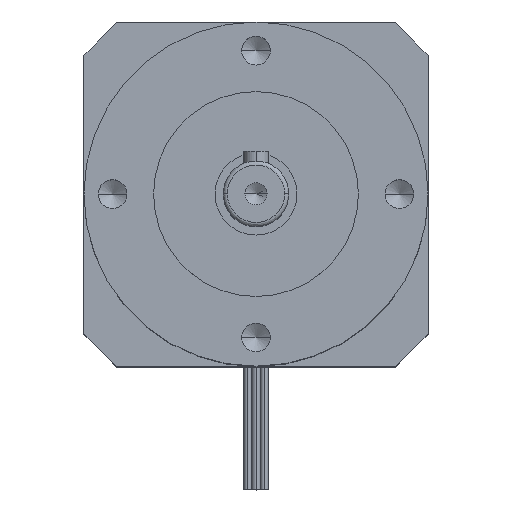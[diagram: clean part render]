
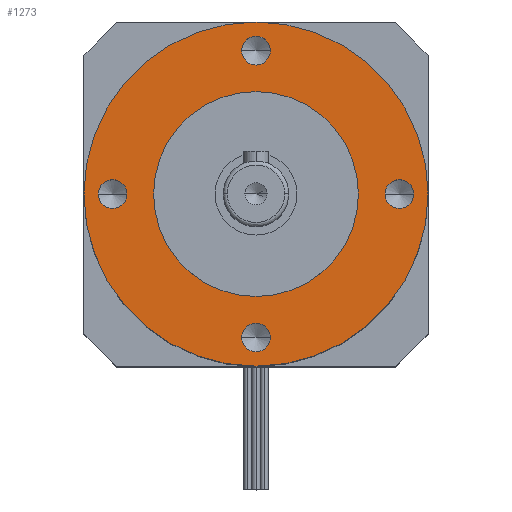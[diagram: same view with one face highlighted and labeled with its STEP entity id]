
A CAD part, top view. The second image highlights one B-rep face of the part: STEP entity #1273.
In plain terms, the highlighted planar face has unit normal (0, 0, 1).
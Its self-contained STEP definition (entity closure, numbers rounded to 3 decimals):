
#2 = DIRECTION ( 'NONE',  ( 0., 0., -1. ) ) ;
#8 = FACE_BOUND ( 'NONE', #1263, .T. ) ;
#12 = AXIS2_PLACEMENT_3D ( 'NONE', #1371, #1602, #530 ) ;
#33 = CARTESIAN_POINT ( 'NONE',  ( 0., -17.5, 0. ) ) ;
#65 = DIRECTION ( 'NONE',  ( -1., 0., 0. ) ) ;
#83 = EDGE_LOOP ( 'NONE', ( #880, #2537 ) ) ;
#96 = VERTEX_POINT ( 'NONE', #1905 ) ;
#98 = DIRECTION ( 'NONE',  ( -1., 0., 0. ) ) ;
#106 = DIRECTION ( 'NONE',  ( -1., 0., 0. ) ) ;
#113 = VERTEX_POINT ( 'NONE', #2788 ) ;
#115 = AXIS2_PLACEMENT_3D ( 'NONE', #1536, #2636, #1202 ) ;
#120 = EDGE_CURVE ( 'NONE', #96, #1233, #2514, .T. ) ;
#152 = CARTESIAN_POINT ( 'NONE',  ( 0., -17.5, 0. ) ) ;
#222 = AXIS2_PLACEMENT_3D ( 'NONE', #1409, #1854, #2082 ) ;
#227 = VERTEX_POINT ( 'NONE', #2404 ) ;
#230 = ORIENTED_EDGE ( 'NONE', *, *, #370, .F. ) ;
#234 = DIRECTION ( 'NONE',  ( -1., 0., 0. ) ) ;
#296 = DIRECTION ( 'NONE',  ( 0., 0., -1. ) ) ;
#331 = EDGE_CURVE ( 'NONE', #2233, #2077, #1846, .T. ) ;
#342 = VERTEX_POINT ( 'NONE', #536 ) ;
#370 = EDGE_CURVE ( 'NONE', #2631, #1724, #546, .T. ) ;
#374 = DIRECTION ( 'NONE',  ( -1., 0., 0. ) ) ;
#397 = CIRCLE ( 'NONE', #1594, 21. ) ;
#408 = AXIS2_PLACEMENT_3D ( 'NONE', #33, #2531, #65 ) ;
#428 = DIRECTION ( 'NONE',  ( 0., 0., 1. ) ) ;
#437 = CARTESIAN_POINT ( 'NONE',  ( -17.5, 0., 0. ) ) ;
#497 = EDGE_CURVE ( 'NONE', #1724, #2631, #1447, .T. ) ;
#512 = DIRECTION ( 'NONE',  ( 0., 0., -1. ) ) ;
#522 = CARTESIAN_POINT ( 'NONE',  ( 0., 0., 0. ) ) ;
#530 = DIRECTION ( 'NONE',  ( -1., 0., 0. ) ) ;
#536 = CARTESIAN_POINT ( 'NONE',  ( 1.75, -17.5, 0. ) ) ;
#546 = CIRCLE ( 'NONE', #222, 1.75 ) ;
#549 = EDGE_CURVE ( 'NONE', #1233, #96, #2260, .T. ) ;
#603 = FACE_BOUND ( 'NONE', #2399, .T. ) ;
#636 = DIRECTION ( 'NONE',  ( -1., 0., 0. ) ) ;
#638 = CARTESIAN_POINT ( 'NONE',  ( 12.5, 0., 0. ) ) ;
#751 = VERTEX_POINT ( 'NONE', #1996 ) ;
#828 = DIRECTION ( 'NONE',  ( 0., 0., 1. ) ) ;
#874 = CIRCLE ( 'NONE', #408, 1.75 ) ;
#880 = ORIENTED_EDGE ( 'NONE', *, *, #2420, .F. ) ;
#897 = FACE_OUTER_BOUND ( 'NONE', #2814, .T. ) ;
#898 = CARTESIAN_POINT ( 'NONE',  ( 15.75, 0., 0. ) ) ;
#935 = CARTESIAN_POINT ( 'NONE',  ( 1.75, 17.5, 0. ) ) ;
#943 = AXIS2_PLACEMENT_3D ( 'NONE', #152, #828, #374 ) ;
#974 = FACE_BOUND ( 'NONE', #1064, .T. ) ;
#989 = AXIS2_PLACEMENT_3D ( 'NONE', #1815, #2, #234 ) ;
#997 = EDGE_CURVE ( 'NONE', #2061, #1398, #397, .T. ) ;
#998 = ORIENTED_EDGE ( 'NONE', *, *, #2186, .F. ) ;
#1013 = CARTESIAN_POINT ( 'NONE',  ( 0., 17.5, 0. ) ) ;
#1046 = DIRECTION ( 'NONE',  ( -1., 0., 0. ) ) ;
#1064 = EDGE_LOOP ( 'NONE', ( #2295, #1714 ) ) ;
#1112 = AXIS2_PLACEMENT_3D ( 'NONE', #2436, #428, #106 ) ;
#1117 = PLANE ( 'NONE',  #989 ) ;
#1121 = CIRCLE ( 'NONE', #943, 1.75 ) ;
#1202 = DIRECTION ( 'NONE',  ( -1., 0., 0. ) ) ;
#1228 = DIRECTION ( 'NONE',  ( 0., 0., 1. ) ) ;
#1233 = VERTEX_POINT ( 'NONE', #638 ) ;
#1263 = EDGE_LOOP ( 'NONE', ( #230, #1577 ) ) ;
#1273 = ADVANCED_FACE ( 'NONE', ( #603, #2249, #8, #974, #1412, #897 ), #1117, .F. ) ;
#1300 = ORIENTED_EDGE ( 'NONE', *, *, #2658, .F. ) ;
#1327 = CIRCLE ( 'NONE', #2081, 1.75 ) ;
#1330 = CARTESIAN_POINT ( 'NONE',  ( -21., 0., 0. ) ) ;
#1371 = CARTESIAN_POINT ( 'NONE',  ( 0., 0., 0. ) ) ;
#1398 = VERTEX_POINT ( 'NONE', #1403 ) ;
#1400 = CARTESIAN_POINT ( 'NONE',  ( 17.5, 0., 0. ) ) ;
#1403 = CARTESIAN_POINT ( 'NONE',  ( 21., 0., 0. ) ) ;
#1409 = CARTESIAN_POINT ( 'NONE',  ( 0., 17.5, 0. ) ) ;
#1412 = FACE_BOUND ( 'NONE', #2774, .T. ) ;
#1442 = DIRECTION ( 'NONE',  ( 0., 0., 1. ) ) ;
#1447 = CIRCLE ( 'NONE', #1546, 1.75 ) ;
#1507 = ORIENTED_EDGE ( 'NONE', *, *, #2177, .F. ) ;
#1536 = CARTESIAN_POINT ( 'NONE',  ( -17.5, 0., 0. ) ) ;
#1546 = AXIS2_PLACEMENT_3D ( 'NONE', #1013, #1228, #1685 ) ;
#1564 = CIRCLE ( 'NONE', #115, 1.75 ) ;
#1577 = ORIENTED_EDGE ( 'NONE', *, *, #497, .F. ) ;
#1594 = AXIS2_PLACEMENT_3D ( 'NONE', #522, #296, #98 ) ;
#1602 = DIRECTION ( 'NONE',  ( 0., 0., 1. ) ) ;
#1641 = DIRECTION ( 'NONE',  ( -1., 0., 0. ) ) ;
#1672 = CARTESIAN_POINT ( 'NONE',  ( 19.25, 0., 0. ) ) ;
#1685 = DIRECTION ( 'NONE',  ( -1., 0., 0. ) ) ;
#1690 = CARTESIAN_POINT ( 'NONE',  ( -1.75, 17.5, 0. ) ) ;
#1714 = ORIENTED_EDGE ( 'NONE', *, *, #2796, .F. ) ;
#1724 = VERTEX_POINT ( 'NONE', #935 ) ;
#1732 = ORIENTED_EDGE ( 'NONE', *, *, #549, .F. ) ;
#1815 = CARTESIAN_POINT ( 'NONE',  ( -21., -21., 0. ) ) ;
#1819 = CIRCLE ( 'NONE', #1112, 1.75 ) ;
#1846 = CIRCLE ( 'NONE', #2830, 1.75 ) ;
#1854 = DIRECTION ( 'NONE',  ( 0., 0., 1. ) ) ;
#1877 = ORIENTED_EDGE ( 'NONE', *, *, #120, .F. ) ;
#1905 = CARTESIAN_POINT ( 'NONE',  ( -12.5, 0., 0. ) ) ;
#1996 = CARTESIAN_POINT ( 'NONE',  ( -1.75, -17.5, 0. ) ) ;
#2061 = VERTEX_POINT ( 'NONE', #1330 ) ;
#2077 = VERTEX_POINT ( 'NONE', #898 ) ;
#2081 = AXIS2_PLACEMENT_3D ( 'NONE', #437, #2230, #636 ) ;
#2082 = DIRECTION ( 'NONE',  ( -1., 0., 0. ) ) ;
#2097 = DIRECTION ( 'NONE',  ( -1., 0., 0. ) ) ;
#2177 = EDGE_CURVE ( 'NONE', #751, #342, #874, .T. ) ;
#2186 = EDGE_CURVE ( 'NONE', #1398, #2061, #2871, .T. ) ;
#2230 = DIRECTION ( 'NONE',  ( 0., 0., 1. ) ) ;
#2233 = VERTEX_POINT ( 'NONE', #1672 ) ;
#2249 = FACE_BOUND ( 'NONE', #83, .T. ) ;
#2260 = CIRCLE ( 'NONE', #2650, 12.5 ) ;
#2288 = DIRECTION ( 'NONE',  ( 0., 0., 1. ) ) ;
#2295 = ORIENTED_EDGE ( 'NONE', *, *, #2423, .F. ) ;
#2373 = CARTESIAN_POINT ( 'NONE',  ( 0., 0., 0. ) ) ;
#2399 = EDGE_LOOP ( 'NONE', ( #1507, #1300 ) ) ;
#2404 = CARTESIAN_POINT ( 'NONE',  ( -15.75, 0., 0. ) ) ;
#2420 = EDGE_CURVE ( 'NONE', #2077, #2233, #1819, .T. ) ;
#2423 = EDGE_CURVE ( 'NONE', #113, #227, #1564, .T. ) ;
#2424 = ORIENTED_EDGE ( 'NONE', *, *, #997, .F. ) ;
#2436 = CARTESIAN_POINT ( 'NONE',  ( 17.5, 0., 0. ) ) ;
#2514 = CIRCLE ( 'NONE', #12, 12.5 ) ;
#2531 = DIRECTION ( 'NONE',  ( 0., 0., 1. ) ) ;
#2537 = ORIENTED_EDGE ( 'NONE', *, *, #331, .F. ) ;
#2613 = AXIS2_PLACEMENT_3D ( 'NONE', #2748, #512, #2097 ) ;
#2631 = VERTEX_POINT ( 'NONE', #1690 ) ;
#2636 = DIRECTION ( 'NONE',  ( 0., 0., 1. ) ) ;
#2650 = AXIS2_PLACEMENT_3D ( 'NONE', #2373, #1442, #1046 ) ;
#2658 = EDGE_CURVE ( 'NONE', #342, #751, #1121, .T. ) ;
#2748 = CARTESIAN_POINT ( 'NONE',  ( 0., 0., 0. ) ) ;
#2774 = EDGE_LOOP ( 'NONE', ( #1877, #1732 ) ) ;
#2788 = CARTESIAN_POINT ( 'NONE',  ( -19.25, 0., 0. ) ) ;
#2796 = EDGE_CURVE ( 'NONE', #227, #113, #1327, .T. ) ;
#2814 = EDGE_LOOP ( 'NONE', ( #998, #2424 ) ) ;
#2830 = AXIS2_PLACEMENT_3D ( 'NONE', #1400, #2288, #1641 ) ;
#2871 = CIRCLE ( 'NONE', #2613, 21. ) ;
